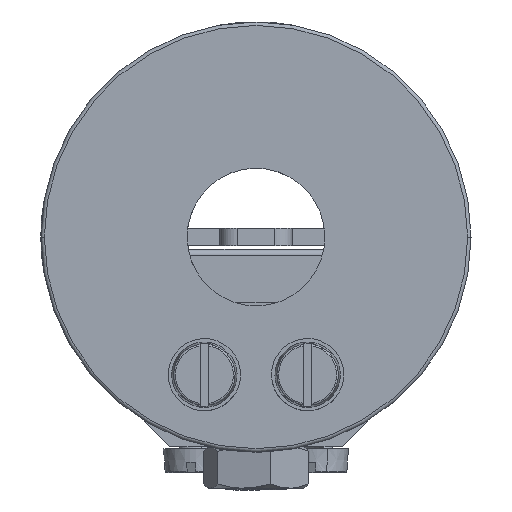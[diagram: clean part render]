
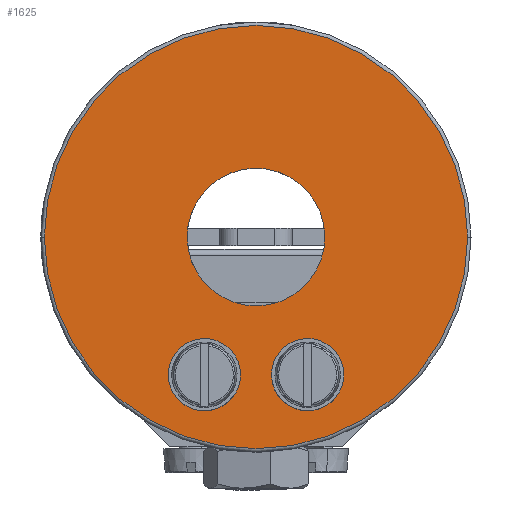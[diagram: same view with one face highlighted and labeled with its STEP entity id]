
A CAD part, front view. The second image highlights one B-rep face of the part: STEP entity #1625.
In plain terms, the highlighted planar face has unit normal (0, -1, 0).
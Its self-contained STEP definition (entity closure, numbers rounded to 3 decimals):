
#1552=AXIS2_PLACEMENT_3D('Circle Axis2P3D',#1550,#1551,$) ;
#1565=AXIS2_PLACEMENT_3D('Plane Axis2P3D',#1562,#1563,#1564) ;
#1569=AXIS2_PLACEMENT_3D('Circle Axis2P3D',#1567,#1568,$) ;
#1578=AXIS2_PLACEMENT_3D('Circle Axis2P3D',#1576,#1577,$) ;
#1587=AXIS2_PLACEMENT_3D('Circle Axis2P3D',#1585,#1586,$) ;
#1596=AXIS2_PLACEMENT_3D('Circle Axis2P3D',#1594,#1595,$) ;
#1609=AXIS2_PLACEMENT_3D('Circle Axis2P3D',#1607,#1608,$) ;
#1618=AXIS2_PLACEMENT_3D('Circle Axis2P3D',#1616,#1617,$) ;
#1514=CARTESIAN_POINT('Control Point',(4.843,-3.,-62.319)) ;
#1515=CARTESIAN_POINT('Control Point',(4.527,-3.,-62.898)) ;
#1516=CARTESIAN_POINT('Control Point',(3.983,-3.,-63.353)) ;
#1517=CARTESIAN_POINT('Control Point',(3.275,-3.,-63.56)) ;
#1518=CARTESIAN_POINT('Control Point',(1.869,-3.,-63.383)) ;
#1519=CARTESIAN_POINT('Control Point',(0.959,-3.,-62.295)) ;
#1520=CARTESIAN_POINT('Control Point',(0.752,-3.,-61.588)) ;
#1521=CARTESIAN_POINT('Control Point',(0.841,-3.,-60.884)) ;
#1522=CARTESIAN_POINT('Control Point',(1.157,-3.,-60.305)) ;
#1523=CARTESIAN_POINT('Vertex',(4.843,-3.,-62.319)) ;
#1525=CARTESIAN_POINT('Vertex',(1.157,-3.,-60.305)) ;
#1550=CARTESIAN_POINT('Axis2P3D Location',(3.,-3.,-61.312)) ;
#1562=CARTESIAN_POINT('Axis2P3D Location',(0.,-3.,-53.312)) ;
#1567=CARTESIAN_POINT('Axis2P3D Location',(0.,-3.,-53.312)) ;
#1571=CARTESIAN_POINT('Vertex',(12.3,-3.,-53.312)) ;
#1573=CARTESIAN_POINT('Vertex',(-12.3,-3.,-53.312)) ;
#1576=CARTESIAN_POINT('Axis2P3D Location',(0.,-3.,-53.312)) ;
#1585=CARTESIAN_POINT('Axis2P3D Location',(-3.,-3.,-61.312)) ;
#1589=CARTESIAN_POINT('Vertex',(-1.157,-3.,-62.319)) ;
#1591=CARTESIAN_POINT('Vertex',(-4.843,-3.,-60.305)) ;
#1594=CARTESIAN_POINT('Axis2P3D Location',(-3.,-3.,-61.312)) ;
#1607=CARTESIAN_POINT('Axis2P3D Location',(0.,-3.,-53.312)) ;
#1611=CARTESIAN_POINT('Vertex',(-3.51,-3.,-51.395)) ;
#1613=CARTESIAN_POINT('Vertex',(3.51,-3.,-55.23)) ;
#1616=CARTESIAN_POINT('Axis2P3D Location',(0.,-3.,-53.312)) ;
#1551=DIRECTION('Axis2P3D Direction',(0.,1.,0.)) ;
#1563=DIRECTION('Axis2P3D Direction',(0.,1.,-0.)) ;
#1564=DIRECTION('Axis2P3D XDirection',(-1.,0.,0.)) ;
#1568=DIRECTION('Axis2P3D Direction',(0.,1.,-0.)) ;
#1577=DIRECTION('Axis2P3D Direction',(0.,1.,-0.)) ;
#1586=DIRECTION('Axis2P3D Direction',(0.,1.,-0.)) ;
#1595=DIRECTION('Axis2P3D Direction',(0.,1.,-0.)) ;
#1608=DIRECTION('Axis2P3D Direction',(0.,1.,-0.)) ;
#1617=DIRECTION('Axis2P3D Direction',(0.,1.,-0.)) ;
#1582=ORIENTED_EDGE('',*,*,#1575,.F.) ;
#1583=ORIENTED_EDGE('',*,*,#1580,.F.) ;
#1600=ORIENTED_EDGE('',*,*,#1593,.T.) ;
#1601=ORIENTED_EDGE('',*,*,#1598,.T.) ;
#1604=ORIENTED_EDGE('',*,*,#1554,.T.) ;
#1605=ORIENTED_EDGE('',*,*,#1527,.T.) ;
#1622=ORIENTED_EDGE('',*,*,#1615,.T.) ;
#1623=ORIENTED_EDGE('',*,*,#1620,.T.) ;
#1602=FACE_BOUND('',#1599,.T.) ;
#1606=FACE_BOUND('',#1603,.T.) ;
#1624=FACE_BOUND('',#1621,.T.) ;
#1625=ADVANCED_FACE('Hauptk\X2\00F6\X0\rper',(#1584,#1602,#1606,#1624),#1566,.F.) ;
#1513=B_SPLINE_CURVE_WITH_KNOTS('',5,(#1514,#1515,#1516,#1517,#1518,#1519,#1520,#1521,#1522),.UNSPECIFIED.,.F.,.U.,(6,3,6),(-3.299,0.,3.299),.UNSPECIFIED.) ;
#1553=CIRCLE('generated circle',#1552,2.1) ;
#1570=CIRCLE('generated circle',#1569,12.3) ;
#1579=CIRCLE('generated circle',#1578,12.3) ;
#1588=CIRCLE('generated circle',#1587,2.1) ;
#1597=CIRCLE('generated circle',#1596,2.1) ;
#1610=CIRCLE('generated circle',#1609,4.) ;
#1619=CIRCLE('generated circle',#1618,4.) ;
#1527=EDGE_CURVE('',#1524,#1526,#1513,.T.) ;
#1554=EDGE_CURVE('',#1526,#1524,#1553,.T.) ;
#1575=EDGE_CURVE('',#1572,#1574,#1570,.T.) ;
#1580=EDGE_CURVE('',#1574,#1572,#1579,.T.) ;
#1593=EDGE_CURVE('',#1590,#1592,#1588,.T.) ;
#1598=EDGE_CURVE('',#1592,#1590,#1597,.T.) ;
#1615=EDGE_CURVE('',#1612,#1614,#1610,.T.) ;
#1620=EDGE_CURVE('',#1614,#1612,#1619,.T.) ;
#1581=EDGE_LOOP('',(#1582,#1583)) ;
#1599=EDGE_LOOP('',(#1600,#1601)) ;
#1603=EDGE_LOOP('',(#1604,#1605)) ;
#1621=EDGE_LOOP('',(#1622,#1623)) ;
#1584=FACE_OUTER_BOUND('',#1581,.T.) ;
#1566=PLANE('',#1565) ;
#1524=VERTEX_POINT('',#1523) ;
#1526=VERTEX_POINT('',#1525) ;
#1572=VERTEX_POINT('',#1571) ;
#1574=VERTEX_POINT('',#1573) ;
#1590=VERTEX_POINT('',#1589) ;
#1592=VERTEX_POINT('',#1591) ;
#1612=VERTEX_POINT('',#1611) ;
#1614=VERTEX_POINT('',#1613) ;
